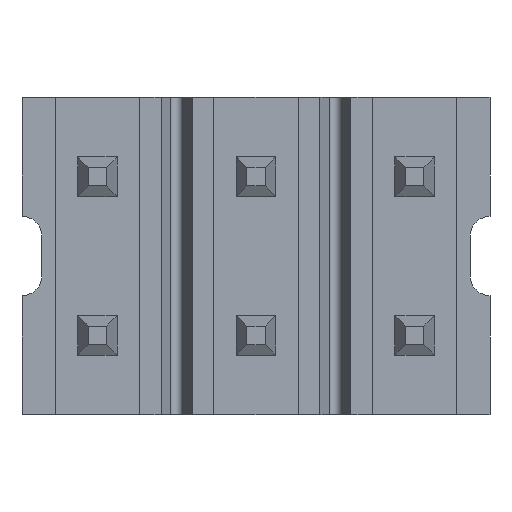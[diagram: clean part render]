
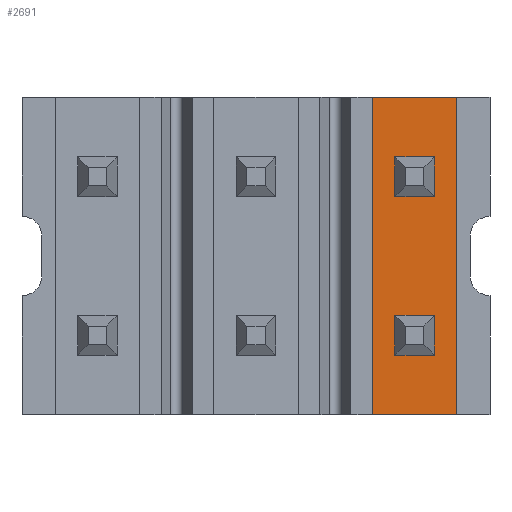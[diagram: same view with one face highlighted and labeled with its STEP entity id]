
A CAD part, front view. The second image highlights one B-rep face of the part: STEP entity #2691.
In plain terms, the highlighted planar face has unit normal (0, -1, 0).
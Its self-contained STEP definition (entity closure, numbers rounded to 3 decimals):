
#136=DIRECTION('',(-1.,0.,0.));
#137=VECTOR('',#136,1.06);
#138=CARTESIAN_POINT('',(2.53,-0.6,-2.));
#139=LINE('',#138,#137);
#326=DIRECTION('',(-1.,0.,0.));
#327=VECTOR('',#326,1.06);
#328=CARTESIAN_POINT('',(2.53,-0.6,2.));
#329=LINE('',#328,#327);
#581=DIRECTION('',(0.,0.,-1.));
#582=VECTOR('',#581,4.);
#583=CARTESIAN_POINT('',(2.53,-0.6,2.));
#584=LINE('',#583,#582);
#585=DIRECTION('',(0.,0.,1.));
#586=VECTOR('',#585,0.5);
#587=CARTESIAN_POINT('',(2.25,-0.6,-1.25));
#588=LINE('',#587,#586);
#589=DIRECTION('',(-1.,0.,0.));
#590=VECTOR('',#589,0.5);
#591=CARTESIAN_POINT('',(2.25,-0.6,-0.75));
#592=LINE('',#591,#590);
#593=DIRECTION('',(0.,0.,1.));
#594=VECTOR('',#593,0.5);
#595=CARTESIAN_POINT('',(1.75,-0.6,-1.25));
#596=LINE('',#595,#594);
#597=DIRECTION('',(-1.,0.,0.));
#598=VECTOR('',#597,0.5);
#599=CARTESIAN_POINT('',(2.25,-0.6,-1.25));
#600=LINE('',#599,#598);
#601=DIRECTION('',(0.,0.,1.));
#602=VECTOR('',#601,0.5);
#603=CARTESIAN_POINT('',(2.25,-0.6,0.75));
#604=LINE('',#603,#602);
#605=DIRECTION('',(-1.,0.,0.));
#606=VECTOR('',#605,0.5);
#607=CARTESIAN_POINT('',(2.25,-0.6,1.25));
#608=LINE('',#607,#606);
#609=DIRECTION('',(0.,0.,1.));
#610=VECTOR('',#609,0.5);
#611=CARTESIAN_POINT('',(1.75,-0.6,0.75));
#612=LINE('',#611,#610);
#613=DIRECTION('',(-1.,0.,0.));
#614=VECTOR('',#613,0.5);
#615=CARTESIAN_POINT('',(2.25,-0.6,0.75));
#616=LINE('',#615,#614);
#617=DIRECTION('',(0.,0.,-1.));
#618=VECTOR('',#617,4.);
#619=CARTESIAN_POINT('',(1.47,-0.6,2.));
#620=LINE('',#619,#618);
#1978=CARTESIAN_POINT('',(2.53,-0.6,-2.));
#1980=VERTEX_POINT('',#1978);
#1981=CARTESIAN_POINT('',(1.47,-0.6,-2.));
#1982=VERTEX_POINT('',#1981);
#1994=CARTESIAN_POINT('',(2.53,-0.6,2.));
#1996=VERTEX_POINT('',#1994);
#1997=CARTESIAN_POINT('',(1.47,-0.6,2.));
#1998=VERTEX_POINT('',#1997);
#2017=CARTESIAN_POINT('',(2.25,-0.6,-1.25));
#2018=CARTESIAN_POINT('',(2.25,-0.6,-0.75));
#2019=VERTEX_POINT('',#2017);
#2020=VERTEX_POINT('',#2018);
#2021=CARTESIAN_POINT('',(2.25,-0.6,0.75));
#2022=CARTESIAN_POINT('',(2.25,-0.6,1.25));
#2023=VERTEX_POINT('',#2021);
#2024=VERTEX_POINT('',#2022);
#2025=CARTESIAN_POINT('',(1.75,-0.6,-1.25));
#2026=CARTESIAN_POINT('',(1.75,-0.6,-0.75));
#2027=VERTEX_POINT('',#2025);
#2028=VERTEX_POINT('',#2026);
#2029=CARTESIAN_POINT('',(1.75,-0.6,0.75));
#2030=CARTESIAN_POINT('',(1.75,-0.6,1.25));
#2031=VERTEX_POINT('',#2029);
#2032=VERTEX_POINT('',#2030);
#2661=CARTESIAN_POINT('',(2.53,-0.6,2.));
#2662=DIRECTION('',(0.,1.,0.));
#2663=DIRECTION('',(-1.,0.,0.));
#2664=AXIS2_PLACEMENT_3D('',#2661,#2662,#2663);
#2665=PLANE('',#2664);
#2666=ORIENTED_EDGE('',*,*,#2168,.T.);
#2668=ORIENTED_EDGE('',*,*,#2667,.F.);
#2669=ORIENTED_EDGE('',*,*,#2405,.F.);
#2671=ORIENTED_EDGE('',*,*,#2670,.T.);
#2672=EDGE_LOOP('',(#2666,#2668,#2669,#2671));
#2673=FACE_OUTER_BOUND('',#2672,.F.);
#2674=ORIENTED_EDGE('',*,*,#2552,.T.);
#2676=ORIENTED_EDGE('',*,*,#2675,.T.);
#2678=ORIENTED_EDGE('',*,*,#2677,.F.);
#2680=ORIENTED_EDGE('',*,*,#2679,.F.);
#2681=EDGE_LOOP('',(#2674,#2676,#2678,#2680));
#2682=FACE_BOUND('',#2681,.F.);
#2683=ORIENTED_EDGE('',*,*,#2536,.T.);
#2685=ORIENTED_EDGE('',*,*,#2684,.T.);
#2687=ORIENTED_EDGE('',*,*,#2686,.F.);
#2688=ORIENTED_EDGE('',*,*,#2640,.F.);
#2689=EDGE_LOOP('',(#2683,#2685,#2687,#2688));
#2690=FACE_BOUND('',#2689,.F.);
#2691=ADVANCED_FACE('',(#2673,#2682,#2690),#2665,.F.);
#2168=EDGE_CURVE('',#1980,#1982,#139,.T.);
#2405=EDGE_CURVE('',#1996,#1998,#329,.T.);
#2536=EDGE_CURVE('',#2023,#2024,#604,.T.);
#2552=EDGE_CURVE('',#2019,#2020,#588,.T.);
#2640=EDGE_CURVE('',#2023,#2031,#616,.T.);
#2667=EDGE_CURVE('',#1998,#1982,#620,.T.);
#2670=EDGE_CURVE('',#1996,#1980,#584,.T.);
#2675=EDGE_CURVE('',#2020,#2028,#592,.T.);
#2677=EDGE_CURVE('',#2027,#2028,#596,.T.);
#2679=EDGE_CURVE('',#2019,#2027,#600,.T.);
#2684=EDGE_CURVE('',#2024,#2032,#608,.T.);
#2686=EDGE_CURVE('',#2031,#2032,#612,.T.);
